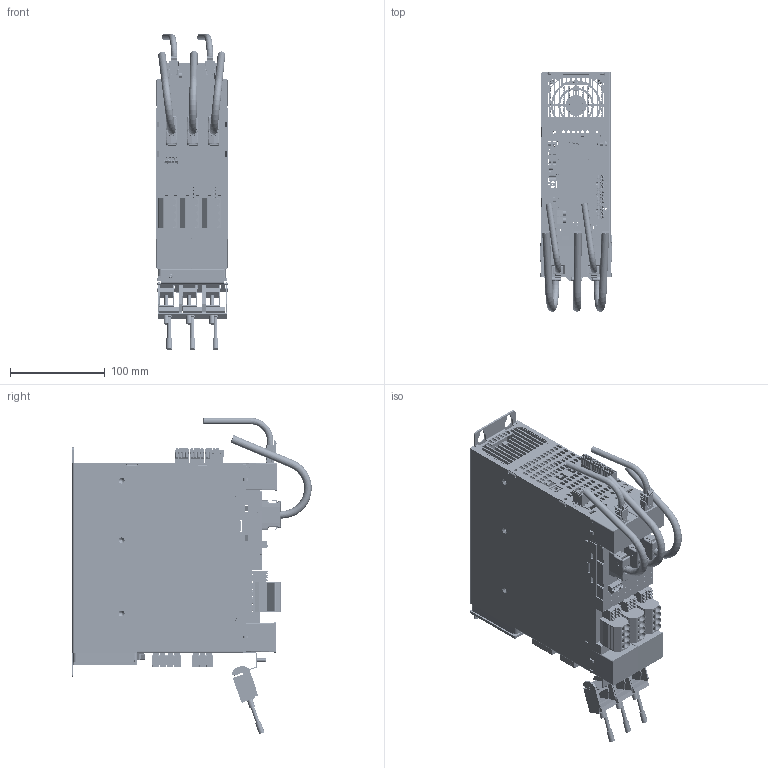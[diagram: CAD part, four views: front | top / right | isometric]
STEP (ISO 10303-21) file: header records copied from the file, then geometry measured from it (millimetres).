
FILE_DESCRIPTION (( 'STEP AP214' ), '1' );
FILE_NAME ('_MDP2100 (09-83-100-DDD-03-(C)).STEP', '2020-12-04T10:54:30', ( 'Windows-Benutzer' ), ( '' ), 'SwSTEP 2.0', 'SolidWorks 2018', '' );
FILE_SCHEMA (( 'AUTOMOTIVE_DESIGN' ));
Length unit declared in the file: millimetre
Products named in the file (50): ZExxxx-4753-x3 Streufolie MDD2100; ZExxxx-4473-x7 Abdeckung MDD2100_nur Mechanik; Geber_BG_step; Lüfter-BG_nur Mechanik; 4080221214 WM_SL_7.62HP_03_90G 3.2 SN BK 1026770000; 4080225493_Mini-IO_gerade_c-1971885-1-a-3d; 3030301010 - 1 Flachkopfschraube ISO 7045 (DIN 7985) M3 x 6 - Z7 - 4.8 Torx; ZExxxx-4857-x4 ZWK Schutzabdeckung; BLZ 7.62HP_03_180 SN BK 1059590000; ZExxxx-4856-x4 Einsatz Varan Gehäuse Mini IO; U-Leistungsteil_140102_f〉 step; ZExxxx-4475-x4 K黨lk鰎per MDD2100; BVF 7.62HP_04_180 BCF_06R SN BK BX 1080440000; Schnapphaken 24V; 3026874_SK 14-D; Zexxxx-4506-x7 Gebergehäuse 3 Slot MDD2000_3 Slot; Dummy_ZM2013-5033-XX feedback cable MDD2000_ohne Stecker; varan_miniio_140801; 4110262172 4pol.Federkraftstecker f.2reih 1705390; ZExxxx-4504-x10 Varan Gehäuse Mini IO; Kontaktblende BG1_step stand alone; Dummy_ZM2013-5033-XX Geberkabel MDD2000_kurz; Varan IN_Mini IO; 3030301126 Linsenflanschkopf ISO7380 (Torx) - M3x8 Teclack_0304055923 Button head socket screw ISO 7380 M4x35; ZExxxx-4474-x8 Gehäuse MDD2100; ZExxxx-5130-x9-Positionierung 3 Slot_3 Slot; 3026887_sk20-d-select; LOETPAD_120X50_LOETPAD_120X50; ZExxxx-4474-x8 Gehäuse MDD2100_nur Mechanik; 4080225647 WM_SL 7.62HP_02_90G 3.2 SN BK 1026760000; 4110251205 4pol.Minicombicon-Grundgehäuse RM3,5 1937512; A-Teil_140102_f〉 step; Dummy Mini IO (Harting); ZExxxx-4996-x3 Isolatorscheibe; Schnapphaken ZWK; 4080221213 SL 7.62HP_04_90G 3.2 SN BK 1026780000; ZExxxx-4982-x4 Einsatz ZWK Schutzabdeckung; 1059580000_BLZ 7,62HP 02 180 SN BK BX; ZExxxx-4509-x8 L黤terk鋐ig 60x60 Spreizniete; C-Teil_140102_f〉 step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
Assembly tree (79 placements, depth 5):
  _MDP2100 (09-83-100-DDD-03-(C))
    ZExxxx-4475-x4 K黨lk鰎per MDD2100
      ZExxxx-4475-x4 K黨lk鰎per MDD2100
    U-Leistungsteil_140102_f〉 step
      A-Teil_140102_f〉 step
        4080221214 WM_SL_7.62HP_03_90G 3.2 SN BK 1026770000
        4080221213 SL 7.62HP_04_90G 3.2 SN BK 1026780000
        4080225647 WM_SL 7.62HP_02_90G 3.2 SN BK 1026760000
      C-Teil_140102_f〉 step
        4110251205 4pol.Minicombicon-Grundgehäuse RM3,5 1937512  x3
      4110262172 4pol.Federkraftstecker f.2reih 1705390  x3
      1059580000_BLZ 7,62HP 02 180 SN BK BX
      BLZ 7.62HP_03_180 SN BK 1059590000
      BLZ 7.62HP_04_180 SN BK 1059600000
    Kontaktblende BG1_step stand alone
      ZExxxx-5130-x9-Positionierung 3 Slot_3 Slot
      Geber_BG_step
        Zexxxx-4506-x7 Gebergehäuse 3 Slot MDD2000_3 Slot
        DH30B-27S_DH-27-CT1B  x3
        4110262172 4pol.Federkraftstecker f.2reih 1705390
      BVF 7.62HP_04_180 BCF_06R SN BK BX 1080440000  x3
      Varan IN_Mini IO  x2
        ZExxxx-4504-x10 Varan Gehäuse Mini IO
        ZExxxx-4856-x4 Einsatz Varan Gehäuse Mini IO
        varan_miniio_140801
          varan_miniio_140801
          LOETPAD_120X50_LOETPAD_120X50  x6
          4080225493_Mini-IO_gerade_c-1971885-1-a-3d
        Tyco Industrial Mini I_O 2069250-1
        Schnapphaken 24V
        3030301136 PT-Senkkopfschraube WN1423 KA30x8 TX ASF
        Dummy Mini IO (Harting)
      Schutzabdeckung ZWK_V3  x2
        ZExxxx-4857-x4 ZWK Schutzabdeckung
        ZExxxx-4982-x4 Einsatz ZWK Schutzabdeckung
        Schnapphaken ZWK
        3030301136 PT-Senkkopfschraube WN1423 KA30x8 TX ASF
      ZExxxx-4753-x3 Streufolie MDD2100
    ZExxxx-4474-x8 Gehäuse MDD2100_nur Mechanik
      ZExxxx-4474-x8 Gehäuse MDD2100
      fh_m4_10
    ZExxxx-4473-x7 Abdeckung MDD2100_nur Mechanik
      ZExxxx-4473-x7 Abdeckung MDD2100_nur Mechanik
    Lüfter-BG_nur Mechanik
      ZExxxx-4509-x8 L黤terk鋐ig 60x60 Spreizniete
    3030301010 - 1 Flachkopfschraube ISO 7045 (DIN 7985) M3 x 6 - Z7 - 4.8 Torx  x2
    3030301126 Linsenflanschkopf ISO7380 (Torx) - M3x8 Teclack_0304055923 Button head socket screw ISO 7380 M4x35  x5
    3026874_SK 14-D  x3
    3026887_sk20-d-select  x3
    ZExxxx-4996-x3 Isolatorscheibe
    Dummy_ZM2013-5033-XX feedback cable MDD2000_ohne Stecker  x3
      Dummy_ZM2013-5033-XX Geberkabel MDD2000_kurz
Bounding box: 76.8 x 252.16 x 333.11 mm (x, y, z)
Volume: 713133.8 mm3; surface area: 794498.7 mm2
Topology: 92 solids, 95 shells, 17537 faces, 49287 edges, 32012 vertices
Faces by surface type: plane 10690, cylinder 5544, cone 698, bspline 531, torus 74
Full cylindrical faces by diameter (mm): 0.2 x3
Entity records: 373718 total; most frequent: CARTESIAN_POINT 82643, ORIENTED_EDGE 60052, DIRECTION 56075, EDGE_CURVE 30026, VECTOR 20697, LINE 20697, VERTEX_POINT 19633, AXIS2_PLACEMENT_3D 17689
